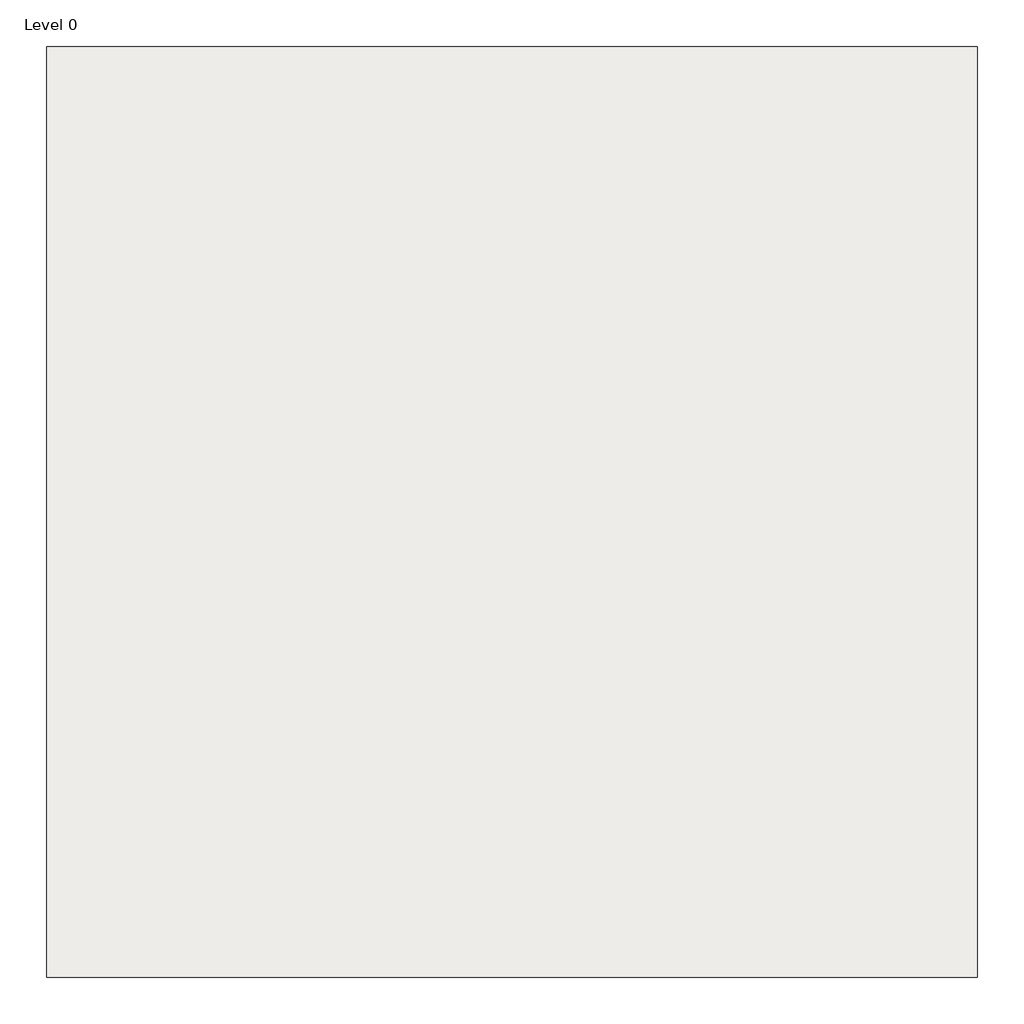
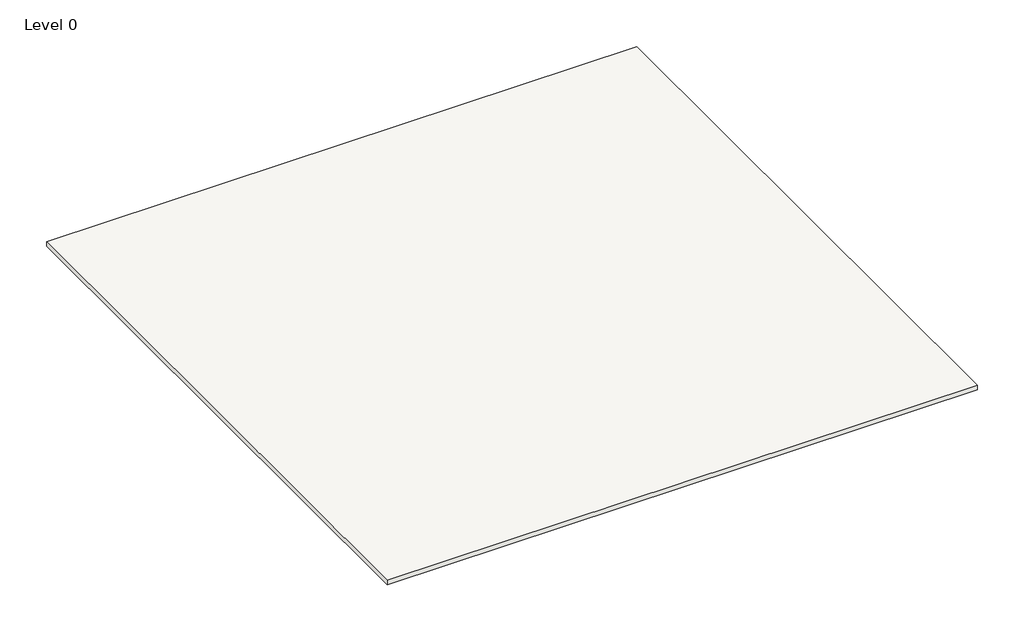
# One storey: 1 slab.
"""IFC4 building model written with IfcOpenShell, lengths in millimetres."""

from ifc_helpers import new_model, si_unit, frame, origin, place, context, project, spatial, polyline, outline, extrude, element, save

model = new_model("IFC4")

# Units and contexts
model_context = context("Model", 3, world=origin())
ifc_project = project(units=[si_unit("LENGTHUNIT", "METRE", prefix="MILLI")], contexts=[model_context])

# Site, building, storey
site = spatial("IfcSite", under=ifc_project)
building = spatial("IfcBuilding", under=site)
storey = spatial("IfcBuildingStorey", under=building, Name="Level 0", Elevation=0.0)

# Slab
placement = place(None, origin())
element("IfcSlab", 1, ObjectType="NBS_RYNO_FlagAndSlabPedestal-supportedPavingSystems_PedestalPavingSystemWithVisualWindUpliftRestraint-TerraSmartIGNO", at=placement, inside=storey, context=model_context, shape_type="SweptSolid", body=[
    extrude(outline(polyline([(1524.0, -4024.0), (1524.0, -1524.0), (4024.0, -1524.0), (4024.0, -4024.0), (1524.0, -4024.0)])), frame((0.0, 0.0, -20.0), z_axis=(0.0, 0.0, 1.0), x_axis=(1.0, 0.0, 0.0)), (0.0, 0.0, 1.0), 20.0),
])

save(model, "model.ifc")
